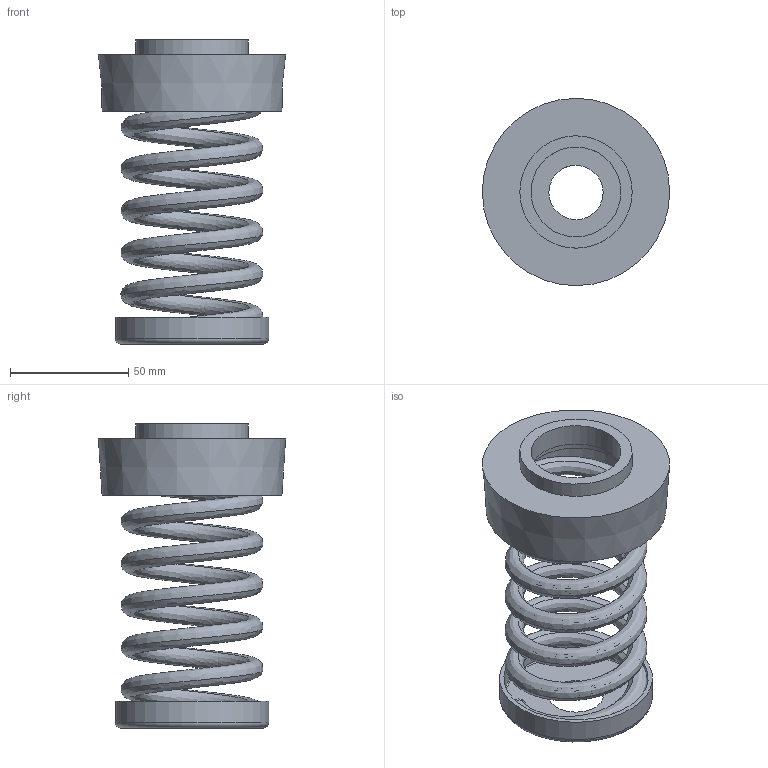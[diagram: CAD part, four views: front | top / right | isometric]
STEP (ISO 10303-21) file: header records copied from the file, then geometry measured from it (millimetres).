
FILE_DESCRIPTION(/* description */ (''),/* implementation_level */ '2;1');
FILE_NAME(/* name */ '\\Mleuckthor2\cad-proe_solids\WEBSITE FILES 05.22.13\STEP\IM\IM-B2-680.stp',/* time_stamp */ '2016-03-05T13:53:45-05:00',/* author */ ('rramoutar'),/* organization */ ('Mason Industries Inc.'),/* preprocessor_version */ 'ST-DEVELOPER v15.6',/* originating_system */ 'Autodesk Inventor 2015',/* authorisation */ '');
FILE_SCHEMA (('CONFIG_CONTROL_DESIGN'));
Length unit declared in the file: inch
Products named in the file (1): IM-B2-680
Bounding box: 79.37 x 79.37 x 128.9 mm (x, y, z)
Volume: 88796.2 mm3; surface area: 83471.7 mm2
Topology: 4 solids, 4 shells, 56 faces, 124 edges, 82 vertices
Faces by surface type: bspline 22, plane 18, cylinder 13, torus 2, cone 1
Full cylindrical faces by diameter (mm): 23.019 x1, 38.1 x1, 41.275 x1, 44.45 x2, 47.625 x1, 59.531 x1, 61.119 x1, 64.914 x1, 69.85 x2
Entity records: 11516 total; most frequent: CARTESIAN_POINT 10330, ORIENTED_EDGE 220, DIRECTION 164, EDGE_CURVE 110, EDGE_LOOP 84, VERTEX_POINT 82, AXIS2_PLACEMENT_3D 67, STYLED_ITEM 60
